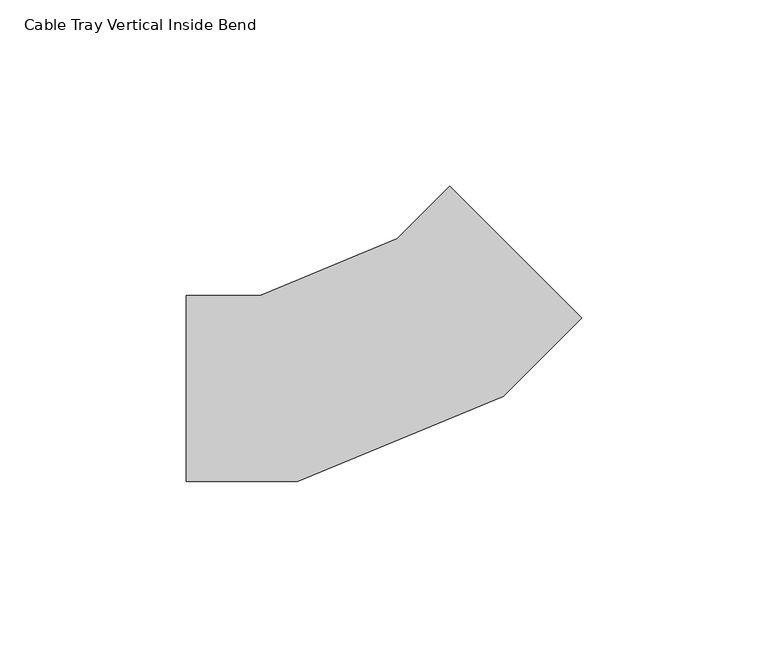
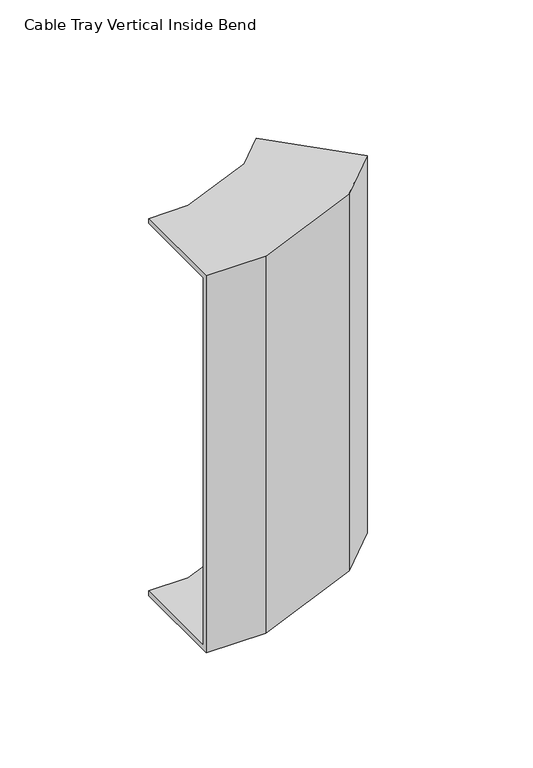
"""IFC4 building model written with IfcOpenShell, lengths in millimetres: cable carrier fitting geometry, Cable Tray Vertical Inside Bend : ELEC_SUB_CT_N2402."""

import ifcopenshell
import ifcopenshell.guid

model = None  # the IFC model being written
_history = None  # IfcOwnerHistory: only IFC2X3 demands one
_inside = {}  # id of a spatial element -> (the spatial element, [elements in it])
_under = {}  # id of a project, library or spatial element -> (it, [spatial elements below it])
_declared = {}  # id of a project -> (the project, [libraries it declares])
_typed = {}  # id of a type object -> (the type object, [elements of that type])
_made_of = {}  # id of a material, layer set ... -> (it, [elements and type objects made of it])


def new_model(schema):
    """Start an empty IFC model of exactly this schema.

    Asked for "IFC4X3", IfcOpenShell would pick the latest addendum, in which some entities
    have other attributes; the version numbers below select the first issue.
    IFC2X3 requires an IfcOwnerHistory on every rooted entity: one is made here for all.
    """
    global model, _history
    if schema == "IFC4X3":
        model = ifcopenshell.file(schema_version=(4, 3, 0, 0))
    else:
        model = ifcopenshell.file(schema=schema)
    _inside.clear()
    _under.clear()
    _declared.clear()
    _typed.clear()
    _made_of.clear()
    _history = None
    if model.schema == "IFC2X3":
        org = make("IfcOrganization", Name="unknown")
        user = make(
            "IfcPersonAndOrganization",
            ThePerson=make("IfcPerson", FamilyName="unknown"),
            TheOrganization=org,
        )
        app = make(
            "IfcApplication",
            ApplicationDeveloper=org,
            Version="unknown",
            ApplicationFullName="unknown",
            ApplicationIdentifier="unknown",
        )
        _history = make(
            "IfcOwnerHistory",
            OwningUser=user,
            OwningApplication=app,
            ChangeAction="ADDED",
            CreationDate=0,
        )
    return model


def make(cls, **values):
    """One entity of the class cls with the attributes given. An attribute that is None is left unset."""
    return model.create_entity(
        cls, **{name: value for name, value in values.items() if value is not None}
    )


def rooted(cls, **values):
    """An entity with a GlobalId (a new one), such as an element, a storey or a relation."""
    return make(cls, GlobalId=ifcopenshell.guid.new(), OwnerHistory=_history, **values)


def si_unit(unit_type, name, prefix=None):
    """IfcSIUnit, for example si_unit("LENGTHUNIT", "METRE", prefix="MILLI")."""
    return make("IfcSIUnit", UnitType=unit_type, Prefix=prefix, Name=name)


def assignment(units):
    """IfcUnitAssignment: the units of a project."""
    return None if units is None else make("IfcUnitAssignment", Units=units)


def point(xyz):
    """IfcCartesianPoint."""
    return None if xyz is None else make("IfcCartesianPoint", Coordinates=xyz)


def direction(xyz):
    """IfcDirection."""
    return None if xyz is None else make("IfcDirection", DirectionRatios=xyz)


def frame(location, z_axis=None, x_axis=None):
    """IfcAxis2Placement3D, a coordinate frame: its origin and axes. An axis left out is left unset."""
    return make(
        "IfcAxis2Placement3D",
        Location=point(location),
        Axis=direction(z_axis),
        RefDirection=direction(x_axis),
    )


def origin():
    """The frame at (0, 0, 0) with its axes left unset."""
    return frame((0.0, 0.0, 0.0))


def place(relative_to, where):
    """IfcLocalPlacement: puts the frame where relative to a parent placement (None: the world)."""
    return make(
        "IfcLocalPlacement", PlacementRelTo=relative_to, RelativePlacement=where
    )


def context(
    kind, dimensions, precision=None, world=None, true_north=None, identifier=None
):
    """IfcGeometricRepresentationContext, for example the 3D "Model" context."""
    return make(
        "IfcGeometricRepresentationContext",
        ContextIdentifier=identifier,
        ContextType=kind,
        CoordinateSpaceDimension=dimensions,
        Precision=precision,
        WorldCoordinateSystem=world,
        TrueNorth=true_north,
    )


def project(units=None, contexts=None):
    """IfcProject with its units and contexts."""
    return rooted(
        "IfcProject",
        Name="project",
        RepresentationContexts=contexts,
        UnitsInContext=assignment(units),
    )


def spatial(cls, under=None, at=None, **own):
    """A site, building, storey or space (cls), placed at a placement, below another one or the project."""
    s = rooted(cls, ObjectPlacement=at, **own)
    if under is not None:
        _under.setdefault(under.id(), (under, []))[1].append(s)
    return s


def faces_of(points, faces, orient=None, outer=None):
    """IfcFace entities. A face is a list of loops; a loop is a list of indices into points, from 0.

    orient and outer hold one flag for each loop. By default every Orientation is true, the
    first loop of a face is its IfcFaceOuterBound and the others are IfcFaceBound.
    """
    made = []
    for i, loops in enumerate(faces):
        bounds = []
        for j, loop in enumerate(loops):
            is_outer = j == 0 if outer is None else outer[i][j]
            bounds.append(
                make(
                    "IfcFaceOuterBound" if is_outer else "IfcFaceBound",
                    Bound=make("IfcPolyLoop", Polygon=[points[k] for k in loop]),
                    Orientation=True if orient is None else orient[i][j],
                )
            )
        made.append(make("IfcFace", Bounds=bounds))
    return made


def faceted_brep(points, faces, orient=None, outer=None, voids=None):
    """IfcFacetedBrep: a solid bounded by flat faces; with voids (closed shells), ...WithVoids."""
    shared = [point(p) for p in points]
    hull = make("IfcClosedShell", CfsFaces=faces_of(shared, faces, orient, outer))
    if voids is None:
        return make("IfcFacetedBrep", Outer=hull)
    return make(
        "IfcFacetedBrepWithVoids",
        Outer=hull,
        Voids=[
            make(cls, CfsFaces=faces_of(shared, fs, o, b)) for cls, fs, o, b in voids
        ],
    )


def shape(context_of_items, identifier, shape_type, items):
    """IfcShapeRepresentation: the items that make up one representation, for example the "Body"."""
    return make(
        "IfcShapeRepresentation",
        ContextOfItems=context_of_items,
        RepresentationIdentifier=identifier,
        RepresentationType=shape_type,
        Items=items,
    )


def source(mapping_origin, context_of_items, identifier, shape_type, items):
    """IfcRepresentationMap: a shape defined once, which mapped items show again and again."""
    return make(
        "IfcRepresentationMap",
        MappingOrigin=mapping_origin,
        MappedRepresentation=shape(context_of_items, identifier, shape_type, items),
    )


def transform(
    local_origin,
    x_axis=None,
    y_axis=None,
    z_axis=None,
    scale=None,
    scale2=None,
    scale3=None,
    uniform=True,
):
    """IfcCartesianTransformationOperator3D, or its non-uniform kind. x_axis, y_axis, z_axis: its Axis1, 2, 3."""
    if uniform:
        return make(
            "IfcCartesianTransformationOperator3D",
            Axis1=direction(x_axis),
            Axis2=direction(y_axis),
            LocalOrigin=point(local_origin),
            Scale=scale,
            Axis3=direction(z_axis),
        )
    return make(
        "IfcCartesianTransformationOperator3DnonUniform",
        Axis1=direction(x_axis),
        Axis2=direction(y_axis),
        LocalOrigin=point(local_origin),
        Scale=scale,
        Axis3=direction(z_axis),
        Scale2=scale2,
        Scale3=scale3,
    )


def mapped(mapping_source, mapping_target):
    """IfcMappedItem: shows the shape of a source again, moved by a transform."""
    return make(
        "IfcMappedItem", MappingSource=mapping_source, MappingTarget=mapping_target
    )


def made_of(thing, what):
    """Note that an element or type object is made of a material, layer set ...; save() writes the relation."""
    if what is not None:
        _made_of.setdefault(what.id(), (what, []))[1].append(thing)
    return thing


def element(
    cls,
    number,
    at=None,
    inside=None,
    cuts=None,
    type_object=None,
    material=None,
    context=None,
    identifier="Body",
    shape_type=None,
    held_by="IfcProductDefinitionShape",
    body=None,
    shapes=None,
    **own,
):
    """One element of the class cls, such as IfcWall. Its Tag is "e" and its number.

    at: its placement. inside: the storey or other place that contains it. cuts: it is an
    opening in that element (IfcRelVoidsElement). A single representation is given by context,
    identifier, shape_type and body (its items); several are given by shapes. held_by: the class
    of the entity that holds the representations. save() writes the other relations.
    """
    e = rooted(cls, Tag="e%d" % number, ObjectPlacement=at, **own)
    if body is not None:
        shapes = [shape(context, identifier, shape_type, body)]
    if shapes is not None:
        e.Representation = make(held_by, Representations=shapes)
    if inside is not None:
        _inside.setdefault(inside.id(), (inside, []))[1].append(e)
    if cuts is not None:
        rooted(
            "IfcRelVoidsElement", RelatingBuildingElement=cuts, RelatedOpeningElement=e
        )
    if type_object is not None:
        _typed.setdefault(type_object.id(), (type_object, []))[1].append(e)
    return made_of(e, material)


def aggregate(whole, parts):
    """IfcRelAggregates: a whole, such as a stair, and the parts it consists of."""
    return rooted("IfcRelAggregates", RelatingObject=whole, RelatedObjects=parts)


def save(model, path):
    """Write the relations noted so far, then the file.

    IfcRelAggregates (storeys below a building ...), IfcRelContainedInSpatialStructure (elements
    in a storey), IfcRelDefinesByType, IfcRelAssociatesMaterial and IfcRelDeclares: one each for
    every whole, place, type object, material and project.
    """
    for whole, parts in _under.values():
        aggregate(whole, parts)
    for where, things in _inside.values():
        rooted(
            "IfcRelContainedInSpatialStructure",
            RelatedElements=things,
            RelatingStructure=where,
        )
    for kind, things in _typed.values():
        rooted("IfcRelDefinesByType", RelatedObjects=things, RelatingType=kind)
    for what, things in _made_of.values():
        rooted("IfcRelAssociatesMaterial", RelatedObjects=things, RelatingMaterial=what)
    for by, libraries in _declared.values():
        rooted("IfcRelDeclares", RelatingContext=by, RelatedDefinitions=libraries)
    model.write(path)


def cable_tray_vertical_inside_bend_bc6060de(model_context):
    return source(origin(), model_context, "Body", "Brep", [
        faceted_brep([(-51.7766957, 25.0, 100.0), (-51.7766957, 25.0, 97.46), (-51.7766957, -22.46, 97.46), (-51.7766957, -22.46, -97.46), (-51.7766957, 25.0, -97.46), (-51.7766957, 25.0, -100.0), (-51.7766957, -25.0, -100.0), (-51.7766957, -25.0, 100.0), (18.9339828, 54.2893223, 100.0), (54.2893221, 18.9339834, 100.0), (54.2893221, 18.9339834, -100.0), (18.9339828, 54.2893223, -100.0), (18.9339828, 54.2893223, -97.46), (52.4932708, 20.7300346, -97.46), (52.4932708, 20.7300346, 97.46), (18.9339828, 54.2893223, 97.46), (-31.8854588, 25.0, 100.0), (-31.8854588, 25.0, 97.46), (4.8687544, 40.2240937, 97.46), (31.752685, -0.0105514, 97.46), (-22.4450778, -22.46, 97.46), (-22.4450778, -22.46, -97.46), (31.752685, -0.0105514, -97.46), (4.8687544, 40.2240937, -97.46), (-31.8854588, 25.0, -97.46), (-31.8854588, 25.0, -100.0), (4.8687544, 40.2240937, -100.0), (33.1914794, -2.1638594, -100.0), (-21.9398404, -25.0, -100.0), (-21.9398404, -25.0, 100.0), (33.1914794, -2.1638594, 100.0), (4.8687544, 40.2240937, 100.0)], [[[0, 1, 2, 3, 4, 5, 6, 7]], [[8, 9, 10, 11, 12, 13, 14, 15]], [[1, 0, 16, 17]], [[2, 1, 17, 18, 15, 14, 19, 20]], [[3, 2, 20, 21]], [[4, 3, 21, 22, 13, 12, 23, 24]], [[5, 4, 24, 25]], [[6, 5, 25, 26, 11, 10, 27, 28]], [[7, 6, 28, 29]], [[0, 7, 29, 30, 9, 8, 31, 16]], [[17, 16, 31, 18]], [[21, 20, 19, 22]], [[25, 24, 23, 26]], [[29, 28, 27, 30]], [[18, 31, 8, 15]], [[22, 19, 14, 13]], [[26, 23, 12, 11]], [[30, 27, 10, 9]]]),
    ])


if __name__ == "__main__":
    model = new_model("IFC4")
    model_context = context("Model", 3, world=origin())
    ifc_project = project(units=[si_unit("LENGTHUNIT", "METRE", prefix="MILLI")], contexts=[model_context])
    site = spatial("IfcSite", under=ifc_project)
    building = spatial("IfcBuilding", under=site)
    placement = place(None, origin())
    cable_tray_vertical_inside_bend_shape = cable_tray_vertical_inside_bend_bc6060de(model_context)
    element("IfcCableCarrierFitting", 1, ObjectType="Cable Tray Vertical Inside Bend : ELEC_SUB_CT_N2402", at=placement, inside=building, context=model_context, shape_type="MappedRepresentation", body=[
        mapped(cable_tray_vertical_inside_bend_shape, transform((0.0, 0.0, 0.0), x_axis=(1.0, 0.0, 0.0), y_axis=(0.0, 1.0, 0.0), z_axis=(0.0, 0.0, 1.0))),
    ])
    save(model, "model.ifc")
